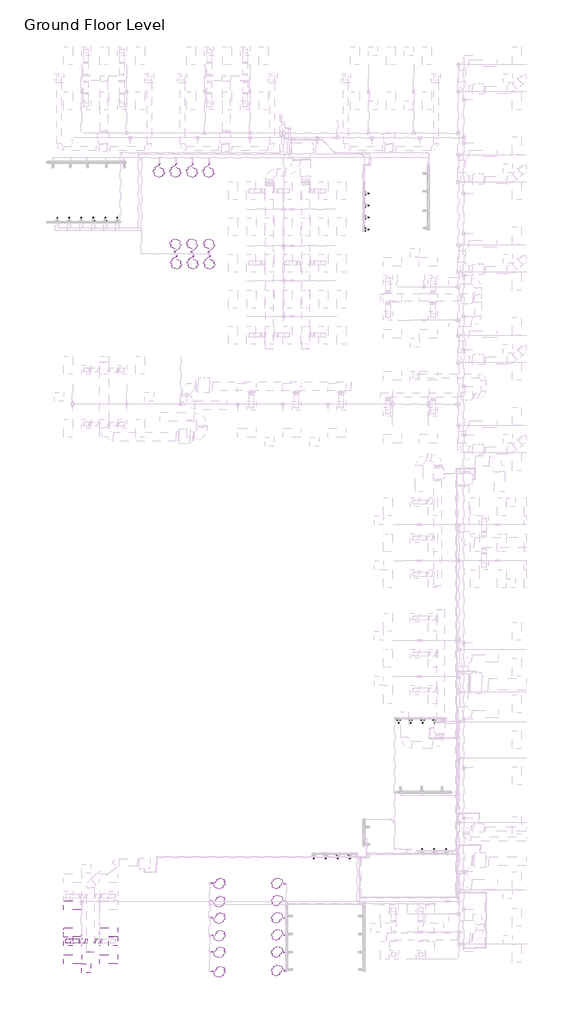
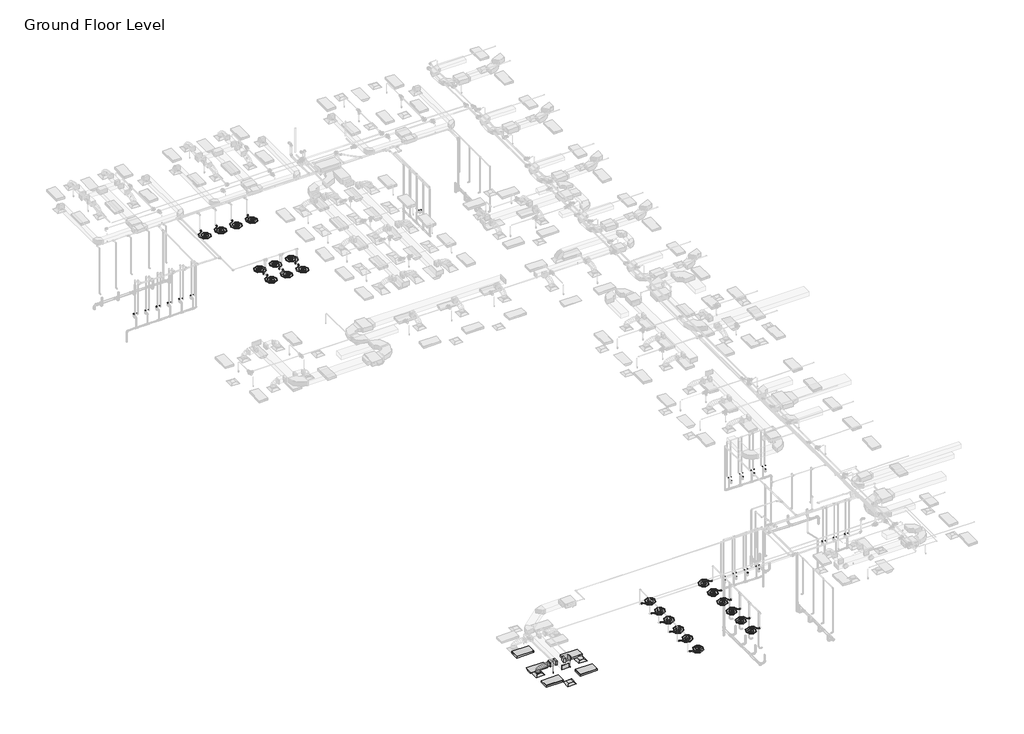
# One storey, part 1 of 68: 43 flow terminals, 6 duct fittings, 5 light fixtures, 3 air terminals, 3 duct segments, 2 fire suppression terminals, 2 pipe segments.
"""IFC4 building model written with IfcOpenShell, lengths in millimetres."""

from ifc_helpers import new_model, si_unit, point, frame, frame_2d, origin, place, context, project, spatial, polyline, circle_curve, ellipse_curve, trimmed, segment, composite_curve, outline, extrude, transform, mapped, element, save
from ifc_brep_helpers import plane_surface, cylinder_surface, advanced_brep
from components import m_return_diffuser_600_x_600_face_300_x_300_connection_ff221211, m_rectangular_endcap_standard_72d4d00d, m_rectangular_takeoff_standard_cb0ccb98, m_rectangular_takeoff_standard_2be5eba1, m_rectangular_to_round_transition_angle_45_degree_641efff0, m_sprinkler_dry_pendent_hosted_15_mm_dry_pendent_9bda8e11, lavatory_unit_m_type_1_c53317d3, shower_m_shower_m_096738a5, m_emergency_recessed_lighting_fixture_600x1200_277_5b10b25d, m_troffer_light_parabolic_rectangular1_0600x1200mm_4_lamp_86473d4a

model = new_model("IFC4")

# Units and contexts
model_context = context("Model", 3, world=origin())
ifc_project = project(units=[si_unit("LENGTHUNIT", "METRE", prefix="MILLI")], contexts=[model_context])

# Site, building, storey
site = spatial("IfcSite", under=ifc_project)
building = spatial("IfcBuilding", under=site)
storey = spatial("IfcBuildingStorey", under=building, Name="Ground Floor Level", Elevation=900.0)

# Air terminals
placement = place(None, origin())
m_return_diffuser_600_x_600_face_300_x_300_connection_shape = m_return_diffuser_600_x_600_face_300_x_300_connection_ff221211(model_context)
element("IfcAirTerminal", 1, ObjectType="M_Return Diffuser : 600 x 600 Face 300 x 300 Connection", at=placement, inside=storey, context=model_context, shape_type="MappedRepresentation", body=[
    mapped(m_return_diffuser_600_x_600_face_300_x_300_connection_shape, transform((-19137.2327605, -40464.7846466, 3650.0), x_axis=(1.0, 0.0, 0.0), y_axis=(0.0, 1.0, 0.0), z_axis=(0.0, 0.0, 1.0))),
])
element("IfcAirTerminal", 2, ObjectType="M_Supply Diffuser : 600 x 600 Face 300 x 300 Connection", at=placement, inside=storey, context=model_context, shape_type="MappedRepresentation", body=[
    mapped(m_return_diffuser_600_x_600_face_300_x_300_connection_shape, transform((-20337.2327605, -38664.7846466, 3650.0), x_axis=(1.0, 0.0, 0.0), y_axis=(0.0, 1.0, 0.0), z_axis=(0.0, 0.0, 1.0))),
])
element("IfcAirTerminal", 3, ObjectType="M_Supply Diffuser : 600 x 600 Face 300 x 300 Connection", at=placement, inside=storey, context=model_context, shape_type="MappedRepresentation", body=[
    mapped(m_return_diffuser_600_x_600_face_300_x_300_connection_shape, transform((-17337.2327605, -38674.7846466, 3650.0), x_axis=(1.0, 0.0, 0.0), y_axis=(0.0, 1.0, 0.0), z_axis=(0.0, 0.0, 1.0))),
])

# Duct fittings
m_rectangular_endcap_standard_shape = m_rectangular_endcap_standard_72d4d00d(model_context)
element("IfcDuctFitting", 4, ObjectType="M_Rectangular Endcap : Standard", at=placement, inside=storey, context=model_context, shape_type="MappedRepresentation", body=[
    mapped(m_rectangular_endcap_standard_shape, transform((-18834.0450532, -39368.1580197, 4100.0), x_axis=(0.0, -1.0, 0.0), y_axis=(1.0, 0.0, 0.0), z_axis=(0.0, 0.0, 1.0))),
])
m_rectangular_takeoff_standard_shape = m_rectangular_takeoff_standard_cb0ccb98(model_context)
element("IfcDuctFitting", 5, ObjectType="M_Rectangular Takeoff : Standard", at=placement, inside=storey, context=model_context, shape_type="MappedRepresentation", body=[
    mapped(m_rectangular_takeoff_standard_shape, transform((-18584.0450532, -38664.7846466, 4100.0), x_axis=(1.0, 0.0, 0.0), y_axis=(0.0, -1.0, 0.0), z_axis=(0.0, 0.0, -1.0))),
])
m_rectangular_takeoff_standard_2_shape = m_rectangular_takeoff_standard_2be5eba1(model_context)
element("IfcDuctFitting", 6, ObjectType="M_Rectangular Takeoff : Standard", at=placement, inside=storey, context=model_context, shape_type="MappedRepresentation", body=[
    mapped(m_rectangular_takeoff_standard_2_shape, transform((-19084.0450532, -38664.7846466, 4100.0), x_axis=(-1.0, 0.0, 0.0), y_axis=(0.0, 1.0, 0.0), z_axis=(0.0, 0.0, -1.0))),
])
m_rectangular_to_round_transition_angle_45_degree_shape = m_rectangular_to_round_transition_angle_45_degree_641efff0(model_context)
element("IfcDuctFitting", 7, ObjectType="M_Rectangular to Round Transition - Angle : 45 Degree", at=placement, inside=storey, context=model_context, shape_type="MappedRepresentation", body=[
    mapped(m_rectangular_to_round_transition_angle_45_degree_shape, transform((-18164.5686918, -38664.7846466, 4100.0), x_axis=(1.0, 0.0, 0.0), y_axis=(0.0, 1.0, 0.0), z_axis=(0.0, 0.0, 1.0))),
])
element("IfcDuctFitting", 8, ObjectType="M_Rectangular to Round Transition - Angle : 45 Degree", at=placement, inside=storey, context=model_context, shape_type="MappedRepresentation", body=[
    mapped(m_rectangular_to_round_transition_angle_45_degree_shape, transform((-20337.2327605, -38664.7846466, 3751.6), x_axis=(0.0, 0.0, 1.0), y_axis=(-1.0, 0.0, 0.0), z_axis=(0.0, -1.0, 0.0))),
])
element("IfcDuctFitting", 9, ObjectType="M_Rectangular to Round Transition - Angle : 45 Degree", at=placement, inside=storey, context=model_context, shape_type="MappedRepresentation", body=[
    mapped(m_rectangular_to_round_transition_angle_45_degree_shape, transform((-19509.8968292, -38664.7846466, 4100.0), x_axis=(-1.0, 0.0, 0.0), y_axis=(0.0, -1.0, 0.0), z_axis=(0.0, 0.0, 1.0))),
])

# Duct segments
element("IfcDuctSegment", 10, ObjectType="Flex - Round", at=placement, inside=storey, context=model_context, shape_type="AdvancedBrep", body=[
    advanced_brep(
    [(-20187.2327605, -38664.7846466, 3826.6), (-20337.2327605, -38814.7846466, 3826.6), (-20487.2327605, -38664.7846466, 3826.6), (-20337.2327605, -38514.7846466, 3826.6), (-20187.2327605, -38664.7846466, 3832.2944892), (-20337.2327605, -38814.7846466, 3857.9377114), (-20487.2327605, -38664.7846466, 3883.5809337), (-20337.2327605, -38514.7846466, 3857.9377114), (-20186.478849, -38664.7846466, 3834.435049), (-20320.216828, -38814.7846466, 3906.2505728), (-20453.9548069, -38664.7846466, 3978.0660967), (-20320.216828, -38514.7846466, 3906.2505728), (-20168.8270484, -38664.7846466, 3857.8020236), (-20273.0329476, -38814.7846466, 3968.7113131), (-20377.2388469, -38664.7846466, 4079.6206026), (-20273.0329476, -38514.7846466, 3968.7113131), (-20132.5429398, -38664.7846466, 3881.8163788), (-20201.4769955, -38814.7846466, 4016.0700639), (-20270.4110511, -38664.7846466, 4150.3237489), (-20201.4769955, -38514.7846466, 4016.0700639), (-20067.7840843, -38664.7846466, 3906.4925606), (-20111.3448475, -38814.7846466, 4050.4146682), (-20154.9056106, -38664.7846466, 4194.3367758), (-20111.3448475, -38514.7846466, 4050.4146682), (-19981.8714556, -38664.7846466, 3926.0424542), (-20008.4323796, -38814.7846466, 4073.8329691), (-20034.9933036, -38664.7846466, 4221.6234841), (-20008.4323796, -38514.7846466, 4073.8329691), (-19883.3845655, -38664.7846466, 3939.1085462), (-19898.5354679, -38814.7846466, 4088.4128097), (-19913.6863702, -38664.7846466, 4237.7170733), (-19898.5354679, -38514.7846466, 4088.4128097), (-19779.9446601, -38664.7846466, 3946.398915), (-19787.4499883, -38814.7846466, 4096.242033), (-19794.9553164, -38664.7846466, 4246.085151), (-19787.4499883, -38514.7846466, 4096.242033), (-19678.2803236, -38664.7846466, 3949.4222102), (-19680.9718167, -38814.7846466, 4099.4084821), (-19683.6633098, -38664.7846466, 4249.394754), (-19680.9718167, -38514.7846466, 4099.4084821), (-19583.9733214, -38664.7846466, 3950.0028429), (-19584.8968292, -38814.7846466, 4100.0), (-19585.8203371, -38664.7846466, 4249.9971571), (-19584.8968292, -38514.7846466, 4100.0)],
    [
        (0, 1, circle_curve(frame((-20337.2327605, -38664.7846466, 3826.6), z_axis=(0.0, 0.0, -1.0), x_axis=(1.0, 0.0, 0.0)), 150.0)),
        (1, 2, circle_curve(frame((-20337.2327605, -38664.7846466, 3826.6), z_axis=(0.0, 0.0, -1.0), x_axis=(1.0, 0.0, 0.0)), 150.0)),
        (2, 3, circle_curve(frame((-20337.2327605, -38664.7846466, 3826.6), z_axis=(0.0, 0.0, -1.0), x_axis=(1.0, 0.0, 0.0)), 150.0)),
        (3, 0, circle_curve(frame((-20337.2327605, -38664.7846466, 3826.6), z_axis=(0.0, 0.0, -1.0), x_axis=(1.0, 0.0, 0.0)), 150.0)),
        (0, 4),
        (4, 5, ellipse_curve(frame((-20337.2327605, -38664.7846466, 3857.9377114), z_axis=(-0.16851014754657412, 0.0, -0.9856999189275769), x_axis=(0.9856999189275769, 0.0, -0.16851014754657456)), 152.176131, 150.0)),
        (5, 1),
        (5, 6, ellipse_curve(frame((-20337.2327605, -38664.7846466, 3857.9377114), z_axis=(-0.16851014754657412, 0.0, -0.9856999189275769), x_axis=(0.9856999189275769, 0.0, -0.16851014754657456)), 152.176131, 150.0)),
        (6, 2),
        (6, 7, ellipse_curve(frame((-20337.2327605, -38664.7846466, 3857.9377114), z_axis=(-0.16851014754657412, 0.0, -0.9856999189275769), x_axis=(0.9856999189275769, 0.0, -0.16851014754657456)), 152.176131, 150.0)),
        (7, 3),
        (7, 4, ellipse_curve(frame((-20337.2327605, -38664.7846466, 3857.9377114), z_axis=(-0.16851014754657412, 0.0, -0.9856999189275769), x_axis=(0.9856999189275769, 0.0, -0.16851014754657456)), 152.176131, 150.0)),
        (4, 8),
        (8, 9, ellipse_curve(frame((-20320.216828, -38664.7846466, 3906.2505728), z_axis=(-0.47309225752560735, 0.0, -0.881012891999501), x_axis=(0.8810128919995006, 0.0, -0.4730922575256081)), 151.8002519, 150.0)),
        (9, 5),
        (9, 10, ellipse_curve(frame((-20320.216828, -38664.7846466, 3906.2505728), z_axis=(-0.47309225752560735, 0.0, -0.881012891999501), x_axis=(0.8810128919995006, 0.0, -0.4730922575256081)), 151.8002519, 150.0)),
        (10, 6),
        (10, 11, ellipse_curve(frame((-20320.216828, -38664.7846466, 3906.2505728), z_axis=(-0.47309225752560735, 0.0, -0.881012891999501), x_axis=(0.8810128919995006, 0.0, -0.4730922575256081)), 151.8002519, 150.0)),
        (11, 7),
        (11, 8, ellipse_curve(frame((-20320.216828, -38664.7846466, 3906.2505728), z_axis=(-0.47309225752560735, 0.0, -0.881012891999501), x_axis=(0.8810128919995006, 0.0, -0.4730922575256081)), 151.8002519, 150.0)),
        (8, 12),
        (12, 13, ellipse_curve(frame((-20273.0329476, -38664.7846466, 3968.7113131), z_axis=(-0.728787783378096, 0.0, -0.6847396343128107), x_axis=(0.6847396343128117, 0.0, -0.7287877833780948)), 152.1832446, 150.0)),
        (13, 9),
        (13, 14, ellipse_curve(frame((-20273.0329476, -38664.7846466, 3968.7113131), z_axis=(-0.728787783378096, 0.0, -0.6847396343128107), x_axis=(0.6847396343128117, 0.0, -0.7287877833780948)), 152.1832446, 150.0)),
        (14, 10),
        (14, 15, ellipse_curve(frame((-20273.0329476, -38664.7846466, 3968.7113131), z_axis=(-0.728787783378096, 0.0, -0.6847396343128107), x_axis=(0.6847396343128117, 0.0, -0.7287877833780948)), 152.1832446, 150.0)),
        (15, 11),
        (15, 12, ellipse_curve(frame((-20273.0329476, -38664.7846466, 3968.7113131), z_axis=(-0.728787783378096, 0.0, -0.6847396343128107), x_axis=(0.6847396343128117, 0.0, -0.7287877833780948)), 152.1832446, 150.0)),
        (12, 16),
        (16, 17, ellipse_curve(frame((-20201.4769955, -38664.7846466, 4016.0700639), z_axis=(-0.8895859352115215, 0.0, -0.4567678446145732), x_axis=(0.45676784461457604, 0.0, -0.88958593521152)), 150.91705, 150.0)),
        (17, 13),
        (17, 18, ellipse_curve(frame((-20201.4769955, -38664.7846466, 4016.0700639), z_axis=(-0.8895859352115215, 0.0, -0.4567678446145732), x_axis=(0.45676784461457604, 0.0, -0.88958593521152)), 150.91705, 150.0)),
        (18, 14),
        (18, 19, ellipse_curve(frame((-20201.4769955, -38664.7846466, 4016.0700639), z_axis=(-0.8895859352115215, 0.0, -0.4567678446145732), x_axis=(0.45676784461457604, 0.0, -0.88958593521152)), 150.91705, 150.0)),
        (19, 15),
        (19, 16, ellipse_curve(frame((-20201.4769955, -38664.7846466, 4016.0700639), z_axis=(-0.8895859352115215, 0.0, -0.4567678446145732), x_axis=(0.45676784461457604, 0.0, -0.88958593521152)), 150.91705, 150.0)),
        (16, 20),
        (20, 21, ellipse_curve(frame((-20111.3448475, -38664.7846466, 4050.4146682), z_axis=(-0.9571203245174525, 0.0, -0.2896906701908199), x_axis=(0.28969067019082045, 0.0, -0.9571203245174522)), 150.369921, 150.0)),
        (21, 17),
        (21, 22, ellipse_curve(frame((-20111.3448475, -38664.7846466, 4050.4146682), z_axis=(-0.9571203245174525, 0.0, -0.2896906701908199), x_axis=(0.28969067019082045, 0.0, -0.9571203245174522)), 150.369921, 150.0)),
        (22, 18),
        (22, 23, ellipse_curve(frame((-20111.3448475, -38664.7846466, 4050.4146682), z_axis=(-0.9571203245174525, 0.0, -0.2896906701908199), x_axis=(0.28969067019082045, 0.0, -0.9571203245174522)), 150.369921, 150.0)),
        (23, 19),
        (23, 20, ellipse_curve(frame((-20111.3448475, -38664.7846466, 4050.4146682), z_axis=(-0.9571203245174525, 0.0, -0.2896906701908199), x_axis=(0.28969067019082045, 0.0, -0.9571203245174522)), 150.369921, 150.0)),
        (20, 24),
        (24, 25, ellipse_curve(frame((-20008.4323796, -38664.7846466, 4073.8329691), z_axis=(-0.9842313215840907, 0.0, -0.17688613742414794), x_axis=(0.17688613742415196, 0.0, -0.9842313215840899)), 150.1583131, 150.0)),
        (25, 21),
        (25, 26, ellipse_curve(frame((-20008.4323796, -38664.7846466, 4073.8329691), z_axis=(-0.9842313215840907, 0.0, -0.17688613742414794), x_axis=(0.17688613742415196, 0.0, -0.9842313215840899)), 150.1583131, 150.0)),
        (26, 22),
        (26, 27, ellipse_curve(frame((-20008.4323796, -38664.7846466, 4073.8329691), z_axis=(-0.9842313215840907, 0.0, -0.17688613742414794), x_axis=(0.17688613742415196, 0.0, -0.9842313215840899)), 150.1583131, 150.0)),
        (27, 23),
        (27, 24, ellipse_curve(frame((-20008.4323796, -38664.7846466, 4073.8329691), z_axis=(-0.9842313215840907, 0.0, -0.17688613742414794), x_axis=(0.17688613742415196, 0.0, -0.9842313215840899)), 150.1583131, 150.0)),
        (24, 28),
        (28, 29, ellipse_curve(frame((-19898.5354679, -38664.7846466, 4088.4128097), z_axis=(-0.9948906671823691, 0.0, -0.1009582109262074), x_axis=(0.10095821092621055, 0.0, -0.9948906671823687)), 150.0710264, 150.0)),
        (29, 25),
        (29, 30, ellipse_curve(frame((-19898.5354679, -38664.7846466, 4088.4128097), z_axis=(-0.9948906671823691, 0.0, -0.1009582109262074), x_axis=(0.10095821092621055, 0.0, -0.9948906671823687)), 150.0710264, 150.0)),
        (30, 26),
        (30, 31, ellipse_curve(frame((-19898.5354679, -38664.7846466, 4088.4128097), z_axis=(-0.9948906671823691, 0.0, -0.1009582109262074), x_axis=(0.10095821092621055, 0.0, -0.9948906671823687)), 150.0710264, 150.0)),
        (31, 27),
        (31, 28, ellipse_curve(frame((-19898.5354679, -38664.7846466, 4088.4128097), z_axis=(-0.9948906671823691, 0.0, -0.1009582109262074), x_axis=(0.10095821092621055, 0.0, -0.9948906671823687)), 150.0710264, 150.0)),
        (28, 32),
        (32, 33, ellipse_curve(frame((-19787.4499883, -38664.7846466, 4096.242033), z_axis=(-0.9987479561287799, 0.0, -0.05002519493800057), x_axis=(0.05002519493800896, 0.0, -0.9987479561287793)), 150.0309634, 150.0)),
        (33, 29),
        (33, 34, ellipse_curve(frame((-19787.4499883, -38664.7846466, 4096.242033), z_axis=(-0.9987479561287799, 0.0, -0.05002519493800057), x_axis=(0.05002519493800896, 0.0, -0.9987479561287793)), 150.0309634, 150.0)),
        (34, 30),
        (34, 35, ellipse_curve(frame((-19787.4499883, -38664.7846466, 4096.242033), z_axis=(-0.9987479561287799, 0.0, -0.05002519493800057), x_axis=(0.05002519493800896, 0.0, -0.9987479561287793)), 150.0309634, 150.0)),
        (35, 31),
        (35, 32, ellipse_curve(frame((-19787.4499883, -38664.7846466, 4096.242033), z_axis=(-0.9987479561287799, 0.0, -0.05002519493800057), x_axis=(0.05002519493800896, 0.0, -0.9987479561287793)), 150.0309634, 150.0)),
        (32, 36),
        (36, 37, ellipse_curve(frame((-19680.9718167, -38664.7846466, 4099.4084821), z_axis=(-0.9998390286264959, 0.0, -0.017942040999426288), x_axis=(0.01794204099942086, 0.0, -0.999839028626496)), 150.0104193, 150.0)),
        (37, 33),
        (37, 38, ellipse_curve(frame((-19680.9718167, -38664.7846466, 4099.4084821), z_axis=(-0.9998390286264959, 0.0, -0.017942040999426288), x_axis=(0.01794204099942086, 0.0, -0.999839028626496)), 150.0104193, 150.0)),
        (38, 34),
        (38, 39, ellipse_curve(frame((-19680.9718167, -38664.7846466, 4099.4084821), z_axis=(-0.9998390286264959, 0.0, -0.017942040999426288), x_axis=(0.01794204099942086, 0.0, -0.999839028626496)), 150.0104193, 150.0)),
        (39, 35),
        (39, 36, ellipse_curve(frame((-19680.9718167, -38664.7846466, 4099.4084821), z_axis=(-0.9998390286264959, 0.0, -0.017942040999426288), x_axis=(0.01794204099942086, 0.0, -0.999839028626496)), 150.0104193, 150.0)),
        (36, 40),
        (40, 41, circle_curve(frame((-19584.8968292, -38664.7846466, 4100.0), z_axis=(-0.9999810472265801, 0.0, -0.006156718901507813), x_axis=(0.006156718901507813, 0.0, -0.9999810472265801)), 150.0)),
        (41, 37),
        (41, 42, circle_curve(frame((-19584.8968292, -38664.7846466, 4100.0), z_axis=(-0.9999810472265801, 0.0, -0.006156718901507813), x_axis=(0.006156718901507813, 0.0, -0.9999810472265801)), 150.0)),
        (42, 38),
        (42, 43, circle_curve(frame((-19584.8968292, -38664.7846466, 4100.0), z_axis=(-0.9999810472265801, 0.0, -0.006156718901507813), x_axis=(0.006156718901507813, 0.0, -0.9999810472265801)), 150.0)),
        (43, 39),
        (43, 40, circle_curve(frame((-19584.8968292, -38664.7846466, 4100.0), z_axis=(-0.9999810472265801, 0.0, -0.006156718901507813), x_axis=(0.006156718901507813, 0.0, -0.9999810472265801)), 150.0)),
    ],
    [
        plane_surface(frame((-20337.2327605, -38814.7846466, 3826.6), z_axis=(0.0, 0.0, -1.0), x_axis=(1.0, 0.0, 0.0))),
        cylinder_surface(frame((-20337.2327605, -38664.7846466, 3826.6), z_axis=(0.0, 0.0, -1.0), x_axis=(1.0, 0.0, 0.0)), 150.0),
        cylinder_surface(frame((-20337.2327605, -38664.7846466, 3857.9377114), z_axis=(-0.3322008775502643, 0.0, -0.9432086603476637), x_axis=(0.9432086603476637, 0.0, -0.3322008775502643)), 150.0),
        cylinder_surface(frame((-20320.216828, -38664.7846466, 3906.2505728), z_axis=(-0.602762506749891, 0.0, -0.7979206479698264), x_axis=(0.7979206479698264, 0.0, -0.602762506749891)), 150.0),
        cylinder_surface(frame((-20273.0329476, -38664.7846466, 3968.7113131), z_axis=(-0.8339024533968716, 0.0, -0.5519118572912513), x_axis=(0.5519118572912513, 0.0, -0.8339024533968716)), 150.0),
        cylinder_surface(frame((-20201.4769955, -38664.7846466, 4016.0700639), z_axis=(-0.9344582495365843, 0.0, -0.35607271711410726), x_axis=(0.35607271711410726, 0.0, -0.9344582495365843)), 150.0),
        cylinder_surface(frame((-20111.3448475, -38664.7846466, 4050.4146682), z_axis=(-0.9750732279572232, 0.0, -0.2218833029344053), x_axis=(0.2218833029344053, 0.0, -0.9750732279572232)), 150.0),
        cylinder_surface(frame((-20008.4323796, -38664.7846466, 4073.8329691), z_axis=(-0.9913140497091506, 0.0, -0.13151598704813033), x_axis=(0.13151598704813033, 0.0, -0.9913140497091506)), 150.0),
        cylinder_surface(frame((-19898.5354679, -38664.7846466, 4088.4128097), z_axis=(-0.9975255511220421, 0.0, -0.07030487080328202), x_axis=(0.07030487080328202, 0.0, -0.9975255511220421)), 150.0),
        cylinder_surface(frame((-19787.4499883, -38664.7846466, 4096.242033), z_axis=(-0.9995581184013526, 0.0, -0.02972487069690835), x_axis=(0.02972487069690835, 0.0, -0.9995581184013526)), 150.0),
        cylinder_surface(frame((-19680.9718167, -38664.7846466, 4099.4084821), z_axis=(-0.9999810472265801, 0.0, -0.006156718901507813), x_axis=(0.006156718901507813, 0.0, -0.9999810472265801)), 150.0),
        plane_surface(frame((-19584.8968292, -38814.7846466, 4100.0), z_axis=(0.9999810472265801, 0.0, 0.00615671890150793), x_axis=(0.00615671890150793, 0.0, -0.9999810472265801))),
    ],
    [
        (0, [[1, 2, 3, 4]]),
        (1, [[-1, 5, 6, 7]]),
        (1, [[-2, -7, 8, 9]]),
        (1, [[-3, -9, 10, 11]]),
        (1, [[-4, -11, 12, -5]]),
        (2, [[-6, 13, 14, 15]]),
        (2, [[-8, -15, 16, 17]]),
        (2, [[-10, -17, 18, 19]]),
        (2, [[-12, -19, 20, -13]]),
        (3, [[-14, 21, 22, 23]]),
        (3, [[-16, -23, 24, 25]]),
        (3, [[-18, -25, 26, 27]]),
        (3, [[-20, -27, 28, -21]]),
        (4, [[-22, 29, 30, 31]]),
        (4, [[-24, -31, 32, 33]]),
        (4, [[-26, -33, 34, 35]]),
        (4, [[-28, -35, 36, -29]]),
        (5, [[-30, 37, 38, 39]]),
        (5, [[-32, -39, 40, 41]]),
        (5, [[-34, -41, 42, 43]]),
        (5, [[-36, -43, 44, -37]]),
        (6, [[-38, 45, 46, 47]]),
        (6, [[-40, -47, 48, 49]]),
        (6, [[-42, -49, 50, 51]]),
        (6, [[-44, -51, 52, -45]]),
        (7, [[-46, 53, 54, 55]]),
        (7, [[-48, -55, 56, 57]]),
        (7, [[-50, -57, 58, 59]]),
        (7, [[-52, -59, 60, -53]]),
        (8, [[-54, 61, 62, 63]]),
        (8, [[-56, -63, 64, 65]]),
        (8, [[-58, -65, 66, 67]]),
        (8, [[-60, -67, 68, -61]]),
        (9, [[-62, 69, 70, 71]]),
        (9, [[-64, -71, 72, 73]]),
        (9, [[-66, -73, 74, 75]]),
        (9, [[-68, -75, 76, -69]]),
        (10, [[-70, 77, 78, 79]]),
        (10, [[-72, -79, 80, 81]]),
        (10, [[-74, -81, 82, 83]]),
        (10, [[-76, -83, 84, -77]]),
        (11, [[-84, -82, -80, -78]]),
    ],
),
])
element("IfcDuctSegment", 11, ObjectType="Radius Elbows / Taps", at=placement, inside=storey, context=model_context, shape_type="SweptSolid", body=[
    extrude(outline(polyline([(-19185.6450532, -38514.7846466), (-19185.6450532, -38814.7846466), (-19509.8968292, -38814.7846466), (-19509.8968292, -38514.7846466), (-19185.6450532, -38514.7846466)])), frame((0.0, 0.0, 3950.0), z_axis=(0.0, 0.0, 1.0), x_axis=(1.0, 0.0, 0.0)), (0.0, 0.0, 1.0), 300.0),
])
element("IfcDuctSegment", 12, ObjectType="Radius Elbows / Taps", at=placement, inside=storey, context=model_context, shape_type="SweptSolid", body=[
    extrude(outline(polyline([(-18482.4450532, -38814.7846466), (-18482.4450532, -38514.7846466), (-18164.5686918, -38514.7846466), (-18164.5686918, -38814.7846466), (-18482.4450532, -38814.7846466)])), frame((0.0, 0.0, 3950.0), z_axis=(0.0, 0.0, 1.0), x_axis=(1.0, 0.0, 0.0)), (0.0, 0.0, 1.0), 300.0),
])

# Fire suppression terminals
m_sprinkler_dry_pendent_hosted_15_mm_dry_pendent_shape = m_sprinkler_dry_pendent_hosted_15_mm_dry_pendent_9bda8e11(model_context)
element("IfcFireSuppressionTerminal", 13, ObjectType="M_Sprinkler - Dry - Pendent - Hosted : 15 mm Dry Pendent", at=placement, inside=storey, context=model_context, shape_type="MappedRepresentation", body=[
    mapped(m_sprinkler_dry_pendent_hosted_15_mm_dry_pendent_shape, transform((-18237.2327605, -38964.7846466, 3650.0), x_axis=(1.0, 0.0, 0.0), y_axis=(0.0, -1.0, 0.0), z_axis=(0.0, 0.0, -1.0))),
])
element("IfcFireSuppressionTerminal", 14, ObjectType="M_Sprinkler - Dry - Pendent - Hosted : 15 mm Dry Pendent", at=placement, inside=storey, context=model_context, shape_type="MappedRepresentation", body=[
    mapped(m_sprinkler_dry_pendent_hosted_15_mm_dry_pendent_shape, transform((-19437.2327605, -38964.7846466, 3650.0), x_axis=(1.0, 0.0, 0.0), y_axis=(0.0, -1.0, 0.0), z_axis=(0.0, 0.0, -1.0))),
])

# Flow terminals
lavatory_unit_m_type_1_shape = lavatory_unit_m_type_1_c53317d3(model_context)
element("IfcFlowTerminal", 15, ObjectType="Lavatory Unit-M : Type 1", at=placement, inside=storey, context=model_context, shape_type="MappedRepresentation", body=[
    mapped(lavatory_unit_m_type_1_shape, transform((-21186.2502, 9255.2153534, 920.0), x_axis=(1.0, 0.0, 0.0), y_axis=(0.0, 1.0, 0.0), z_axis=(0.0, 0.0, 1.0))),
])
element("IfcFlowTerminal", 16, ObjectType="Lavatory Unit-M : Type 1", at=placement, inside=storey, context=model_context, shape_type="MappedRepresentation", body=[
    mapped(lavatory_unit_m_type_1_shape, transform((-20386.2502, 9255.2153534, 920.0), x_axis=(1.0, 0.0, 0.0), y_axis=(0.0, 1.0, 0.0), z_axis=(0.0, 0.0, 1.0))),
])
element("IfcFlowTerminal", 17, ObjectType="Lavatory Unit-M : Type 1", at=placement, inside=storey, context=model_context, shape_type="MappedRepresentation", body=[
    mapped(lavatory_unit_m_type_1_shape, transform((-537.2327605, 8796.1979139, 920.0), x_axis=(0.0, -1.0, 0.0), y_axis=(1.0, 0.0, 0.0), z_axis=(0.0, 0.0, 1.0))),
])
element("IfcFlowTerminal", 18, ObjectType="Lavatory Unit-M : Type 1", at=placement, inside=storey, context=model_context, shape_type="MappedRepresentation", body=[
    mapped(lavatory_unit_m_type_1_shape, transform((-19586.2502, 9255.2153534, 920.0), x_axis=(1.0, 0.0, 0.0), y_axis=(0.0, 1.0, 0.0), z_axis=(0.0, 0.0, 1.0))),
])
element("IfcFlowTerminal", 19, ObjectType="Lavatory Unit-M : Type 1", at=placement, inside=storey, context=model_context, shape_type="MappedRepresentation", body=[
    mapped(lavatory_unit_m_type_1_shape, transform((-18786.2502, 9255.2153534, 920.0), x_axis=(1.0, 0.0, 0.0), y_axis=(0.0, 1.0, 0.0), z_axis=(0.0, 0.0, 1.0))),
])
element("IfcFlowTerminal", 20, ObjectType="Lavatory Unit-M : Type 1", at=placement, inside=storey, context=model_context, shape_type="MappedRepresentation", body=[
    mapped(lavatory_unit_m_type_1_shape, transform((-17986.2502, 9255.2153534, 920.0), x_axis=(1.0, 0.0, 0.0), y_axis=(0.0, 1.0, 0.0), z_axis=(0.0, 0.0, 1.0))),
])
element("IfcFlowTerminal", 21, ObjectType="Lavatory Unit-M : Type 1", at=placement, inside=storey, context=model_context, shape_type="MappedRepresentation", body=[
    mapped(lavatory_unit_m_type_1_shape, transform((-17186.2502, 9255.2153534, 920.0), x_axis=(1.0, 0.0, 0.0), y_axis=(0.0, 1.0, 0.0), z_axis=(0.0, 0.0, 1.0))),
])
element("IfcFlowTerminal", 22, ObjectType="Lavatory Unit-M : Type 1", at=placement, inside=storey, context=model_context, shape_type="MappedRepresentation", body=[
    mapped(lavatory_unit_m_type_1_shape, transform((-537.2327605, 9596.1979139, 920.0), x_axis=(0.0, -1.0, 0.0), y_axis=(1.0, 0.0, 0.0), z_axis=(0.0, 0.0, 1.0))),
])
element("IfcFlowTerminal", 23, ObjectType="Lavatory Unit-M : Type 1", at=placement, inside=storey, context=model_context, shape_type="MappedRepresentation", body=[
    mapped(lavatory_unit_m_type_1_shape, transform((-537.2327605, 10396.1979139, 920.0), x_axis=(0.0, -1.0, 0.0), y_axis=(1.0, 0.0, 0.0), z_axis=(0.0, 0.0, 1.0))),
])
element("IfcFlowTerminal", 24, ObjectType="Lavatory Unit-M : Type 1", at=placement, inside=storey, context=model_context, shape_type="MappedRepresentation", body=[
    mapped(lavatory_unit_m_type_1_shape, transform((-537.2327605, 11196.1979139, 920.0), x_axis=(0.0, -1.0, 0.0), y_axis=(1.0, 0.0, 0.0), z_axis=(0.0, 0.0, 1.0))),
])
element("IfcFlowTerminal", 25, ObjectType="Lavatory Unit-M : Type 1", at=placement, inside=storey, context=model_context, shape_type="MappedRepresentation", body=[
    mapped(lavatory_unit_m_type_1_shape, transform((1803.7498, -23964.7846466, 920.0), x_axis=(-1.0, 0.0, 0.0), y_axis=(0.0, -1.0, 0.0), z_axis=(0.0, 0.0, 1.0))),
])
element("IfcFlowTerminal", 26, ObjectType="Lavatory Unit-M : Type 1", at=placement, inside=storey, context=model_context, shape_type="MappedRepresentation", body=[
    mapped(lavatory_unit_m_type_1_shape, transform((2603.7498, -23964.7846466, 920.0), x_axis=(-1.0, 0.0, 0.0), y_axis=(0.0, -1.0, 0.0), z_axis=(0.0, 0.0, 1.0))),
])
element("IfcFlowTerminal", 27, ObjectType="Lavatory Unit-M : Type 1", at=placement, inside=storey, context=model_context, shape_type="MappedRepresentation", body=[
    mapped(lavatory_unit_m_type_1_shape, transform((3403.7498, -23964.7846466, 920.0), x_axis=(-1.0, 0.0, 0.0), y_axis=(0.0, -1.0, 0.0), z_axis=(0.0, 0.0, 1.0))),
])
element("IfcFlowTerminal", 28, ObjectType="Lavatory Unit-M : Type 1", at=placement, inside=storey, context=model_context, shape_type="MappedRepresentation", body=[
    mapped(lavatory_unit_m_type_1_shape, transform((4203.7498, -23964.7846466, 920.0), x_axis=(-1.0, 0.0, 0.0), y_axis=(0.0, -1.0, 0.0), z_axis=(0.0, 0.0, 1.0))),
])
element("IfcFlowTerminal", 29, ObjectType="Lavatory Unit-M : Type 1", at=placement, inside=storey, context=model_context, shape_type="MappedRepresentation", body=[
    mapped(lavatory_unit_m_type_1_shape, transform((4701.7846789, -32744.7846466, 920.0), x_axis=(1.0, 0.0, 0.0), y_axis=(0.0, 1.0, 0.0), z_axis=(0.0, 0.0, 1.0))),
])
element("IfcFlowTerminal", 30, ObjectType="Lavatory Unit-M : Type 1", at=placement, inside=storey, context=model_context, shape_type="MappedRepresentation", body=[
    mapped(lavatory_unit_m_type_1_shape, transform((3901.7846789, -32744.7846466, 920.0), x_axis=(1.0, 0.0, 0.0), y_axis=(0.0, 1.0, 0.0), z_axis=(0.0, 0.0, 1.0))),
])
element("IfcFlowTerminal", 31, ObjectType="Lavatory Unit-M : Type 1", at=placement, inside=storey, context=model_context, shape_type="MappedRepresentation", body=[
    mapped(lavatory_unit_m_type_1_shape, transform((3101.7846789, -32744.7846466, 920.0), x_axis=(1.0, 0.0, 0.0), y_axis=(0.0, 1.0, 0.0), z_axis=(0.0, 0.0, 1.0))),
])
element("IfcFlowTerminal", 32, ObjectType="Lavatory Unit-M : Type 1", at=placement, inside=storey, context=model_context, shape_type="MappedRepresentation", body=[
    mapped(lavatory_unit_m_type_1_shape, transform((-1448.215321, -32964.7846466, 920.0), x_axis=(-1.0, 0.0, 0.0), y_axis=(0.0, -1.0, 0.0), z_axis=(0.0, 0.0, 1.0))),
])
element("IfcFlowTerminal", 33, ObjectType="Lavatory Unit-M : Type 1", at=placement, inside=storey, context=model_context, shape_type="MappedRepresentation", body=[
    mapped(lavatory_unit_m_type_1_shape, transform((-2248.215321, -32964.7846466, 920.0), x_axis=(-1.0, 0.0, 0.0), y_axis=(0.0, -1.0, 0.0), z_axis=(0.0, 0.0, 1.0))),
])
element("IfcFlowTerminal", 34, ObjectType="Lavatory Unit-M : Type 1", at=placement, inside=storey, context=model_context, shape_type="MappedRepresentation", body=[
    mapped(lavatory_unit_m_type_1_shape, transform((-3048.215321, -32964.7846466, 920.0), x_axis=(-1.0, 0.0, 0.0), y_axis=(0.0, -1.0, 0.0), z_axis=(0.0, 0.0, 1.0))),
])
element("IfcFlowTerminal", 35, ObjectType="Lavatory Unit-M : Type 1", at=placement, inside=storey, context=model_context, shape_type="MappedRepresentation", body=[
    mapped(lavatory_unit_m_type_1_shape, transform((-3848.215321, -32964.7846466, 920.0), x_axis=(-1.0, 0.0, 0.0), y_axis=(0.0, -1.0, 0.0), z_axis=(0.0, 0.0, 1.0))),
])
shower_m_shower_m_shape = shower_m_shower_m_096738a5(model_context)
element("IfcFlowTerminal", 36, ObjectType="Shower-M : Shower-M", at=placement, inside=storey, context=model_context, shape_type="MappedRepresentation", body=[
    mapped(shower_m_shower_m_shape, transform((-10283.9007605, -34799.6019973, 3200.0), x_axis=(-1.0, 0.0, 0.0), y_axis=(0.0, -1.0, 0.0), z_axis=(0.0, 0.0, 1.0))),
])
element("IfcFlowTerminal", 37, ObjectType="Shower-M : Shower-M", at=placement, inside=storey, context=model_context, shape_type="MappedRepresentation", body=[
    mapped(shower_m_shower_m_shape, transform((-10283.9007605, -35999.6019973, 3200.0), x_axis=(-1.0, 0.0, 0.0), y_axis=(0.0, -1.0, 0.0), z_axis=(0.0, 0.0, 1.0))),
])
element("IfcFlowTerminal", 38, ObjectType="Shower-M : Shower-M", at=placement, inside=storey, context=model_context, shape_type="MappedRepresentation", body=[
    mapped(shower_m_shower_m_shape, transform((-10283.9007605, -37099.6019973, 3200.0), x_axis=(-1.0, 0.0, 0.0), y_axis=(0.0, -1.0, 0.0), z_axis=(0.0, 0.0, 1.0))),
])
element("IfcFlowTerminal", 39, ObjectType="Shower-M : Shower-M", at=placement, inside=storey, context=model_context, shape_type="MappedRepresentation", body=[
    mapped(shower_m_shower_m_shape, transform((-10283.9007605, -38269.7846466, 3200.0), x_axis=(-1.0, 0.0, 0.0), y_axis=(0.0, -1.0, 0.0), z_axis=(0.0, 0.0, 1.0))),
])
element("IfcFlowTerminal", 40, ObjectType="Shower-M : Shower-M", at=placement, inside=storey, context=model_context, shape_type="MappedRepresentation", body=[
    mapped(shower_m_shower_m_shape, transform((-10283.9007605, -39369.7846466, 3200.0), x_axis=(-1.0, 0.0, 0.0), y_axis=(0.0, -1.0, 0.0), z_axis=(0.0, 0.0, 1.0))),
])
element("IfcFlowTerminal", 41, ObjectType="Shower-M : Shower-M", at=placement, inside=storey, context=model_context, shape_type="MappedRepresentation", body=[
    mapped(shower_m_shower_m_shape, transform((-10283.9007605, -40669.7846466, 3200.0), x_axis=(-1.0, 0.0, 0.0), y_axis=(0.0, -1.0, 0.0), z_axis=(0.0, 0.0, 1.0))),
])
element("IfcFlowTerminal", 42, ObjectType="Shower-M : Shower-M", at=placement, inside=storey, context=model_context, shape_type="MappedRepresentation", body=[
    mapped(shower_m_shower_m_shape, transform((-6390.5687605, -34864.6926466, 3200.0), x_axis=(1.0, 0.0, 0.0), y_axis=(0.0, 1.0, 0.0), z_axis=(0.0, 0.0, 1.0))),
])
element("IfcFlowTerminal", 43, ObjectType="Shower-M : Shower-M", at=placement, inside=storey, context=model_context, shape_type="MappedRepresentation", body=[
    mapped(shower_m_shower_m_shape, transform((-6390.5687605, -36012.7835466, 3200.0), x_axis=(1.0, 0.0, 0.0), y_axis=(0.0, 1.0, 0.0), z_axis=(0.0, 0.0, 1.0))),
])
element("IfcFlowTerminal", 44, ObjectType="Shower-M : Shower-M", at=placement, inside=storey, context=model_context, shape_type="MappedRepresentation", body=[
    mapped(shower_m_shower_m_shape, transform((-6390.5687605, -37152.7833366, 3200.0), x_axis=(1.0, 0.0, 0.0), y_axis=(0.0, 1.0, 0.0), z_axis=(0.0, 0.0, 1.0))),
])
element("IfcFlowTerminal", 45, ObjectType="Shower-M : Shower-M", at=placement, inside=storey, context=model_context, shape_type="MappedRepresentation", body=[
    mapped(shower_m_shower_m_shape, transform((-6390.5687605, -38292.7833266, 3200.0), x_axis=(1.0, 0.0, 0.0), y_axis=(0.0, 1.0, 0.0), z_axis=(0.0, 0.0, 1.0))),
])
element("IfcFlowTerminal", 46, ObjectType="Shower-M : Shower-M", at=placement, inside=storey, context=model_context, shape_type="MappedRepresentation", body=[
    mapped(shower_m_shower_m_shape, transform((-6390.5687605, -39432.7929166, 3200.0), x_axis=(1.0, 0.0, 0.0), y_axis=(0.0, 1.0, 0.0), z_axis=(0.0, 0.0, 1.0))),
])
element("IfcFlowTerminal", 47, ObjectType="Shower-M : Shower-M", at=placement, inside=storey, context=model_context, shape_type="MappedRepresentation", body=[
    mapped(shower_m_shower_m_shape, transform((-6390.5687605, -40654.7846466, 3200.0), x_axis=(1.0, 0.0, 0.0), y_axis=(0.0, 1.0, 0.0), z_axis=(0.0, 0.0, 1.0))),
])
element("IfcFlowTerminal", 48, ObjectType="Shower-M : Shower-M", at=placement, inside=storey, context=model_context, shape_type="MappedRepresentation", body=[
    mapped(shower_m_shower_m_shape, transform((-14247.2327605, 12535.2153534, 3200.0), x_axis=(0.0, 1.0, 0.0), y_axis=(-1.0, 0.0, 0.0), z_axis=(0.0, 0.0, 1.0))),
])
element("IfcFlowTerminal", 49, ObjectType="Shower-M : Shower-M", at=placement, inside=storey, context=model_context, shape_type="MappedRepresentation", body=[
    mapped(shower_m_shower_m_shape, transform((-13147.2327605, 12535.2153534, 3200.0), x_axis=(0.0, 1.0, 0.0), y_axis=(-1.0, 0.0, 0.0), z_axis=(0.0, 0.0, 1.0))),
])
element("IfcFlowTerminal", 50, ObjectType="Shower-M : Shower-M", at=placement, inside=storey, context=model_context, shape_type="MappedRepresentation", body=[
    mapped(shower_m_shower_m_shape, transform((-12047.2327605, 12535.2153534, 3200.0), x_axis=(0.0, 1.0, 0.0), y_axis=(-1.0, 0.0, 0.0), z_axis=(0.0, 0.0, 1.0))),
])
element("IfcFlowTerminal", 51, ObjectType="Shower-M : Shower-M", at=placement, inside=storey, context=model_context, shape_type="MappedRepresentation", body=[
    mapped(shower_m_shower_m_shape, transform((-10947.2327605, 12535.2153534, 3200.0), x_axis=(0.0, 1.0, 0.0), y_axis=(-1.0, 0.0, 0.0), z_axis=(0.0, 0.0, 1.0))),
])
element("IfcFlowTerminal", 52, ObjectType="Shower-M : Shower-M", at=placement, inside=storey, context=model_context, shape_type="MappedRepresentation", body=[
    mapped(shower_m_shower_m_shape, transform((-13232.2327605, 7645.2153534, 3200.0), x_axis=(0.0, -1.0, 0.0), y_axis=(1.0, 0.0, 0.0), z_axis=(0.0, 0.0, 1.0))),
])
element("IfcFlowTerminal", 53, ObjectType="Shower-M : Shower-M", at=placement, inside=storey, context=model_context, shape_type="MappedRepresentation", body=[
    mapped(shower_m_shower_m_shape, transform((-12122.2327605, 7645.2153534, 3200.0), x_axis=(0.0, -1.0, 0.0), y_axis=(1.0, 0.0, 0.0), z_axis=(0.0, 0.0, 1.0))),
])
element("IfcFlowTerminal", 54, ObjectType="Shower-M : Shower-M", at=placement, inside=storey, context=model_context, shape_type="MappedRepresentation", body=[
    mapped(shower_m_shower_m_shape, transform((-10987.2327605, 7645.2153534, 3200.0), x_axis=(0.0, -1.0, 0.0), y_axis=(1.0, 0.0, 0.0), z_axis=(0.0, 0.0, 1.0))),
])
element("IfcFlowTerminal", 55, ObjectType="Shower-M : Shower-M", at=placement, inside=storey, context=model_context, shape_type="MappedRepresentation", body=[
    mapped(shower_m_shower_m_shape, transform((-10897.2327605, 6425.2153534, 3200.0), x_axis=(0.0, 1.0, 0.0), y_axis=(-1.0, 0.0, 0.0), z_axis=(0.0, 0.0, 1.0))),
])
element("IfcFlowTerminal", 56, ObjectType="Shower-M : Shower-M", at=placement, inside=storey, context=model_context, shape_type="MappedRepresentation", body=[
    mapped(shower_m_shower_m_shape, transform((-11997.2327605, 6435.2153534, 3200.0), x_axis=(0.0, 1.0, 0.0), y_axis=(-1.0, 0.0, 0.0), z_axis=(0.0, 0.0, 1.0))),
])
element("IfcFlowTerminal", 57, ObjectType="Shower-M : Shower-M", at=placement, inside=storey, context=model_context, shape_type="MappedRepresentation", body=[
    mapped(shower_m_shower_m_shape, transform((-13107.2327605, 6435.2153534, 3200.0), x_axis=(0.0, 1.0, 0.0), y_axis=(-1.0, 0.0, 0.0), z_axis=(0.0, 0.0, 1.0))),
])

# Light fixtures
m_emergency_recessed_lighting_fixture_600x1200_277_shape = m_emergency_recessed_lighting_fixture_600x1200_277_5b10b25d(model_context)
element("IfcLightFixture", 58, ObjectType="M_Emergency Recessed Lighting Fixture : 600x1200 - 277", at=placement, inside=storey, context=model_context, shape_type="MappedRepresentation", body=[
    mapped(m_emergency_recessed_lighting_fixture_600x1200_277_shape, transform((-20637.2327605, -37764.7846466, 3650.0), x_axis=(1.0, 0.0, 0.0), y_axis=(0.0, 1.0, 0.0), z_axis=(0.0, 0.0, 1.0))),
])
m_troffer_light_parabolic_rectangular1_0600x1200mm_4_lamp_shape = m_troffer_light_parabolic_rectangular1_0600x1200mm_4_lamp_86473d4a(model_context)
element("IfcLightFixture", 59, ObjectType="M_Troffer Light - Parabolic Rectangular1 : 0600x1200mm(4 Lamp) - 277V 2", at=placement, inside=storey, context=model_context, shape_type="MappedRepresentation", body=[
    mapped(m_troffer_light_parabolic_rectangular1_0600x1200mm_4_lamp_shape, transform((-20018.5292589, -39811.6319125, 3650.0), x_axis=(1.0, 0.0, 0.0), y_axis=(0.0, 1.0, 0.0), z_axis=(0.0, 0.0, 1.0))),
])
element("IfcLightFixture", 60, ObjectType="M_Troffer Light - Parabolic Rectangular1 : 0600x1200mm(4 Lamp) - 277V 2", at=placement, inside=storey, context=model_context, shape_type="MappedRepresentation", body=[
    mapped(m_troffer_light_parabolic_rectangular1_0600x1200mm_4_lamp_shape, transform((-17618.5292589, -39811.6319125, 3650.0), x_axis=(1.0, 0.0, 0.0), y_axis=(0.0, 1.0, 0.0), z_axis=(0.0, 0.0, 1.0))),
])
element("IfcLightFixture", 61, ObjectType="M_Troffer Light - Parabolic Rectangular1 : 0600x1200mm(4 Lamp) - 277V 2", at=placement, inside=storey, context=model_context, shape_type="MappedRepresentation", body=[
    mapped(m_troffer_light_parabolic_rectangular1_0600x1200mm_4_lamp_shape, transform((-17618.5292589, -38011.6319125, 3650.0), x_axis=(1.0, 0.0, 0.0), y_axis=(0.0, 1.0, 0.0), z_axis=(0.0, 0.0, 1.0))),
])
element("IfcLightFixture", 62, ObjectType="M_Troffer Light - Parabolic Rectangular1 : 0600x1200mm(4 Lamp) - 277V 2", at=placement, inside=storey, context=model_context, shape_type="MappedRepresentation", body=[
    mapped(m_troffer_light_parabolic_rectangular1_0600x1200mm_4_lamp_shape, transform((-20018.5292589, -36211.6319125, 3650.0), x_axis=(1.0, 0.0, 0.0), y_axis=(0.0, 1.0, 0.0), z_axis=(0.0, 0.0, 1.0))),
])

# Pipe segments
element("IfcPipeSegment", 63, ObjectType="Steel flanged", at=placement, inside=storey, context=model_context, shape_type="SweptSolid", body=[
    extrude(outline(composite_curve([segment(trimmed(circle_curve(frame_2d((-19437.2327605, -38964.7846466)), 10.668), [point((-19447.9007605, -38964.7846466))], [point((-19437.2327605, -38954.1166466))], False, "CARTESIAN"), True, "CONTINUOUS"), segment(trimmed(circle_curve(frame_2d((-19437.2327605, -38964.7846466)), 10.668), [point((-19437.2327605, -38954.1166466))], [point((-19426.5647605, -38964.7846466))], False, "CARTESIAN"), True, "CONTINUOUS"), segment(trimmed(circle_curve(frame_2d((-19437.2327605, -38964.7846466)), 10.668), [point((-19426.5647605, -38964.7846466))], [point((-19437.2327605, -38975.4526466))], False, "CARTESIAN"), True, "CONTINUOUS"), segment(trimmed(circle_curve(frame_2d((-19437.2327605, -38964.7846466)), 10.668), [point((-19437.2327605, -38975.4526466))], [point((-19447.9007605, -38964.7846466))], False, "CARTESIAN"), True, "CONTINUOUS")], self_intersect=False)), frame((0.0, 0.0, 3650.0), z_axis=(0.0, 0.0, 1.0), x_axis=(1.0, 0.0, 0.0)), (0.0, 0.0, 1.0), 604.4914063),
])
element("IfcPipeSegment", 64, ObjectType="Steel flanged", at=placement, inside=storey, context=model_context, shape_type="SweptSolid", body=[
    extrude(outline(composite_curve([segment(trimmed(circle_curve(frame_2d((-18237.2327605, -38964.7846466)), 10.668), [point((-18247.9007605, -38964.7846466))], [point((-18237.2327605, -38954.1166466))], False, "CARTESIAN"), True, "CONTINUOUS"), segment(trimmed(circle_curve(frame_2d((-18237.2327605, -38964.7846466)), 10.668), [point((-18237.2327605, -38954.1166466))], [point((-18226.5647605, -38964.7846466))], False, "CARTESIAN"), True, "CONTINUOUS"), segment(trimmed(circle_curve(frame_2d((-18237.2327605, -38964.7846466)), 10.668), [point((-18226.5647605, -38964.7846466))], [point((-18237.2327605, -38975.4526466))], False, "CARTESIAN"), True, "CONTINUOUS"), segment(trimmed(circle_curve(frame_2d((-18237.2327605, -38964.7846466)), 10.668), [point((-18237.2327605, -38975.4526466))], [point((-18247.9007605, -38964.7846466))], False, "CARTESIAN"), True, "CONTINUOUS")], self_intersect=False)), frame((0.0, 0.0, 3650.0), z_axis=(0.0, 0.0, 1.0), x_axis=(1.0, 0.0, 0.0)), (0.0, 0.0, 1.0), 604.4914063),
])

save(model, "model.ifc")
